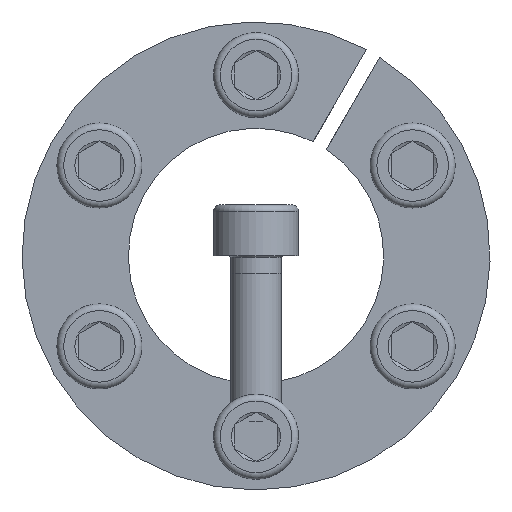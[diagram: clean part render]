
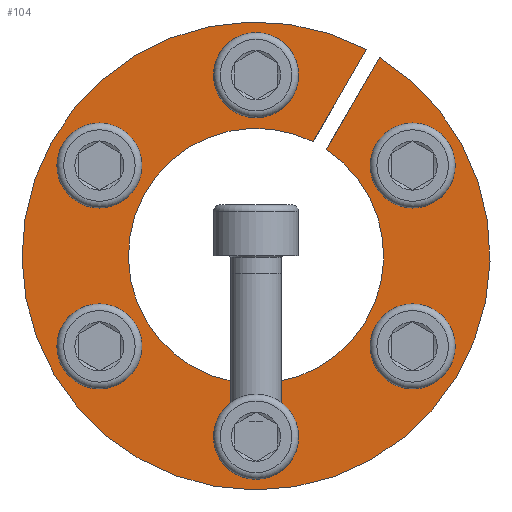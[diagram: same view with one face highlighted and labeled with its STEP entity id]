
A CAD part, front view. The second image highlights one B-rep face of the part: STEP entity #104.
In plain terms, the highlighted planar face has unit normal (0, -1, 0).
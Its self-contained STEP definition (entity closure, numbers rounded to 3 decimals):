
#104 = ADVANCED_FACE( '', ( #217, #218, #219, #220, #221, #222, #223 ), #224, .F. );
#217 = FACE_BOUND( '', #351, .T. );
#218 = FACE_BOUND( '', #352, .T. );
#219 = FACE_BOUND( '', #353, .T. );
#220 = FACE_OUTER_BOUND( '', #354, .T. );
#221 = FACE_BOUND( '', #355, .T. );
#222 = FACE_BOUND( '', #356, .T. );
#223 = FACE_BOUND( '', #357, .T. );
#224 = PLANE( '', #358 );
#351 = EDGE_LOOP( '', ( #580 ) );
#352 = EDGE_LOOP( '', ( #581 ) );
#353 = EDGE_LOOP( '', ( #582 ) );
#354 = EDGE_LOOP( '', ( #583, #584, #585, #586 ) );
#355 = EDGE_LOOP( '', ( #587 ) );
#356 = EDGE_LOOP( '', ( #588 ) );
#357 = EDGE_LOOP( '', ( #589 ) );
#358 = AXIS2_PLACEMENT_3D( '', #590, #591, #592 );
#580 = ORIENTED_EDGE( '', *, *, #720, .T. );
#581 = ORIENTED_EDGE( '', *, *, #746, .T. );
#582 = ORIENTED_EDGE( '', *, *, #735, .T. );
#583 = ORIENTED_EDGE( '', *, *, #754, .F. );
#584 = ORIENTED_EDGE( '', *, *, #759, .F. );
#585 = ORIENTED_EDGE( '', *, *, #711, .T. );
#586 = ORIENTED_EDGE( '', *, *, #764, .F. );
#587 = ORIENTED_EDGE( '', *, *, #743, .T. );
#588 = ORIENTED_EDGE( '', *, *, #723, .T. );
#589 = ORIENTED_EDGE( '', *, *, #717, .T. );
#590 = CARTESIAN_POINT( '', ( 0., 0., 27.5 ) );
#591 = DIRECTION( '', ( 0., 1., 0. ) );
#592 = DIRECTION( '', ( 0., 0., 1. ) );
#711 = EDGE_CURVE( '', #860, #861, #862, .T. );
#717 = EDGE_CURVE( '', #871, #871, #872, .T. );
#720 = EDGE_CURVE( '', #876, #876, #877, .T. );
#723 = EDGE_CURVE( '', #881, #881, #882, .T. );
#735 = EDGE_CURVE( '', #901, #901, #902, .T. );
#743 = EDGE_CURVE( '', #915, #915, #916, .T. );
#746 = EDGE_CURVE( '', #920, #920, #921, .T. );
#754 = EDGE_CURVE( '', #932, #934, #935, .T. );
#759 = EDGE_CURVE( '', #860, #932, #940, .T. );
#764 = EDGE_CURVE( '', #934, #861, #946, .T. );
#860 = VERTEX_POINT( '', #1133 );
#861 = VERTEX_POINT( '', #1134 );
#862 = CIRCLE( '', #1135, 27.5 );
#871 = VERTEX_POINT( '', #1146 );
#872 = CIRCLE( '', #1147, 3. );
#876 = VERTEX_POINT( '', #1151 );
#877 = CIRCLE( '', #1152, 3. );
#881 = VERTEX_POINT( '', #1156 );
#882 = CIRCLE( '', #1157, 3. );
#901 = VERTEX_POINT( '', #1178 );
#902 = CIRCLE( '', #1179, 3. );
#915 = VERTEX_POINT( '', #1198 );
#916 = CIRCLE( '', #1199, 3. );
#920 = VERTEX_POINT( '', #1203 );
#921 = CIRCLE( '', #1204, 3. );
#932 = VERTEX_POINT( '', #1217 );
#934 = VERTEX_POINT( '', #1220 );
#935 = CIRCLE( '', #1221, 15. );
#940 = LINE( '', #1229, #1230 );
#946 = LINE( '', #1237, #1238 );
#1133 = CARTESIAN_POINT( '', ( 12.962, 0., 24.254 ) );
#1134 = CARTESIAN_POINT( '', ( 14.523, 0., 23.352 ) );
#1135 = AXIS2_PLACEMENT_3D( '', #1311, #1312, #1313 );
#1146 = CARTESIAN_POINT( '', ( -16.903, 0., 13.223 ) );
#1147 = AXIS2_PLACEMENT_3D( '', #1322, #1323, #1324 );
#1151 = CARTESIAN_POINT( '', ( -19.903, 0., -8.027 ) );
#1152 = AXIS2_PLACEMENT_3D( '', #1328, #1329, #1330 );
#1156 = CARTESIAN_POINT( '', ( -3., 0., -21.25 ) );
#1157 = AXIS2_PLACEMENT_3D( '', #1334, #1335, #1336 );
#1178 = CARTESIAN_POINT( '', ( 3., 0., 21.25 ) );
#1179 = AXIS2_PLACEMENT_3D( '', #1357, #1358, #1359 );
#1198 = CARTESIAN_POINT( '', ( 19.903, 0., 8.027 ) );
#1199 = AXIS2_PLACEMENT_3D( '', #1369, #1370, #1371 );
#1203 = CARTESIAN_POINT( '', ( 16.903, 0., -13.223 ) );
#1204 = AXIS2_PLACEMENT_3D( '', #1375, #1376, #1377 );
#1217 = CARTESIAN_POINT( '', ( 6.706, 0., 13.418 ) );
#1220 = CARTESIAN_POINT( '', ( 8.267, 0., 12.516 ) );
#1221 = AXIS2_PLACEMENT_3D( '', #1387, #1388, #1389 );
#1229 = CARTESIAN_POINT( '', ( 12.969, 0., 24.267 ) );
#1230 = VECTOR( '', #1393, 1000. );
#1237 = CARTESIAN_POINT( '', ( 8.267, 0., 12.516 ) );
#1238 = VECTOR( '', #1398, 1000. );
#1311 = CARTESIAN_POINT( '', ( 0., 0., 0. ) );
#1312 = DIRECTION( '', ( 0., -1., 0. ) );
#1313 = DIRECTION( '', ( 0., 0., -1. ) );
#1322 = CARTESIAN_POINT( '', ( -18.403, 0., 10.625 ) );
#1323 = DIRECTION( '', ( 0., 1., 0. ) );
#1324 = DIRECTION( '', ( 0.5, 0., 0.866 ) );
#1328 = CARTESIAN_POINT( '', ( -18.403, 0., -10.625 ) );
#1329 = DIRECTION( '', ( 0., 1., 0. ) );
#1330 = DIRECTION( '', ( -0.5, 0., 0.866 ) );
#1334 = CARTESIAN_POINT( '', ( 0., 0., -21.25 ) );
#1335 = DIRECTION( '', ( 0., 1., 0. ) );
#1336 = DIRECTION( '', ( -1., 0., 0. ) );
#1357 = CARTESIAN_POINT( '', ( 0., 0., 21.25 ) );
#1358 = DIRECTION( '', ( 0., 1., 0. ) );
#1359 = DIRECTION( '', ( 1., 0., 0. ) );
#1369 = CARTESIAN_POINT( '', ( 18.403, 0., 10.625 ) );
#1370 = DIRECTION( '', ( 0., 1., 0. ) );
#1371 = DIRECTION( '', ( 0.5, 0., -0.866 ) );
#1375 = CARTESIAN_POINT( '', ( 18.403, 0., -10.625 ) );
#1376 = DIRECTION( '', ( 0., 1., 0. ) );
#1377 = DIRECTION( '', ( -0.5, 0., -0.866 ) );
#1387 = CARTESIAN_POINT( '', ( 0., 0., 0. ) );
#1388 = DIRECTION( '', ( 0., -1., 0. ) );
#1389 = DIRECTION( '', ( 0., 0., -1. ) );
#1393 = DIRECTION( '', ( -0.5, 0., -0.866 ) );
#1398 = DIRECTION( '', ( 0.5, 0., 0.866 ) );
